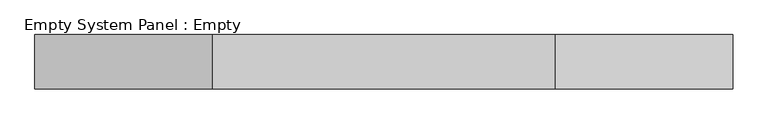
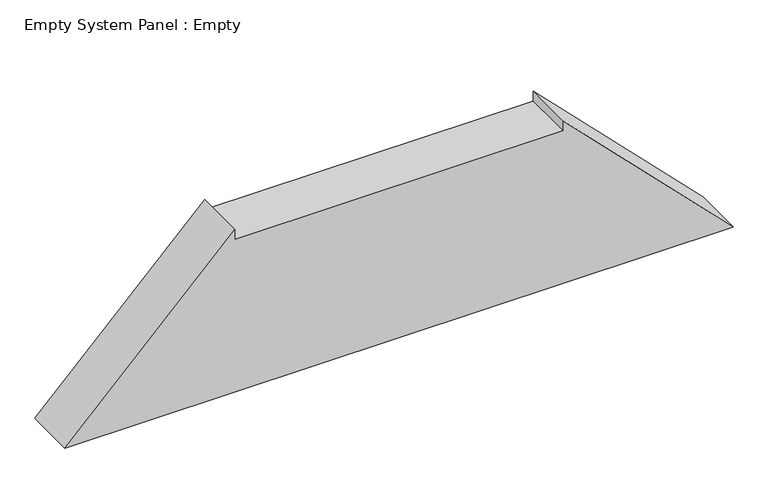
"""IFC4 building model written with IfcOpenShell, lengths in millimetres: plate geometry, Empty System Panel : Empty."""

import ifcopenshell
import ifcopenshell.guid

model = None  # the IFC model being written
_history = None  # IfcOwnerHistory: only IFC2X3 demands one
_inside = {}  # id of a spatial element -> (the spatial element, [elements in it])
_under = {}  # id of a project, library or spatial element -> (it, [spatial elements below it])
_declared = {}  # id of a project -> (the project, [libraries it declares])
_typed = {}  # id of a type object -> (the type object, [elements of that type])
_made_of = {}  # id of a material, layer set ... -> (it, [elements and type objects made of it])


def new_model(schema):
    """Start an empty IFC model of exactly this schema.

    Asked for "IFC4X3", IfcOpenShell would pick the latest addendum, in which some entities
    have other attributes; the version numbers below select the first issue.
    IFC2X3 requires an IfcOwnerHistory on every rooted entity: one is made here for all.
    """
    global model, _history
    if schema == "IFC4X3":
        model = ifcopenshell.file(schema_version=(4, 3, 0, 0))
    else:
        model = ifcopenshell.file(schema=schema)
    _inside.clear()
    _under.clear()
    _declared.clear()
    _typed.clear()
    _made_of.clear()
    _history = None
    if model.schema == "IFC2X3":
        org = make("IfcOrganization", Name="unknown")
        user = make(
            "IfcPersonAndOrganization",
            ThePerson=make("IfcPerson", FamilyName="unknown"),
            TheOrganization=org,
        )
        app = make(
            "IfcApplication",
            ApplicationDeveloper=org,
            Version="unknown",
            ApplicationFullName="unknown",
            ApplicationIdentifier="unknown",
        )
        _history = make(
            "IfcOwnerHistory",
            OwningUser=user,
            OwningApplication=app,
            ChangeAction="ADDED",
            CreationDate=0,
        )
    return model


def make(cls, **values):
    """One entity of the class cls with the attributes given. An attribute that is None is left unset."""
    return model.create_entity(
        cls, **{name: value for name, value in values.items() if value is not None}
    )


def rooted(cls, **values):
    """An entity with a GlobalId (a new one), such as an element, a storey or a relation."""
    return make(cls, GlobalId=ifcopenshell.guid.new(), OwnerHistory=_history, **values)


def si_unit(unit_type, name, prefix=None):
    """IfcSIUnit, for example si_unit("LENGTHUNIT", "METRE", prefix="MILLI")."""
    return make("IfcSIUnit", UnitType=unit_type, Prefix=prefix, Name=name)


def assignment(units):
    """IfcUnitAssignment: the units of a project."""
    return None if units is None else make("IfcUnitAssignment", Units=units)


def point(xyz):
    """IfcCartesianPoint."""
    return None if xyz is None else make("IfcCartesianPoint", Coordinates=xyz)


def direction(xyz):
    """IfcDirection."""
    return None if xyz is None else make("IfcDirection", DirectionRatios=xyz)


def frame(location, z_axis=None, x_axis=None):
    """IfcAxis2Placement3D, a coordinate frame: its origin and axes. An axis left out is left unset."""
    return make(
        "IfcAxis2Placement3D",
        Location=point(location),
        Axis=direction(z_axis),
        RefDirection=direction(x_axis),
    )


def origin():
    """The frame at (0, 0, 0) with its axes left unset."""
    return frame((0.0, 0.0, 0.0))


def place(relative_to, where):
    """IfcLocalPlacement: puts the frame where relative to a parent placement (None: the world)."""
    return make(
        "IfcLocalPlacement", PlacementRelTo=relative_to, RelativePlacement=where
    )


def context(
    kind, dimensions, precision=None, world=None, true_north=None, identifier=None
):
    """IfcGeometricRepresentationContext, for example the 3D "Model" context."""
    return make(
        "IfcGeometricRepresentationContext",
        ContextIdentifier=identifier,
        ContextType=kind,
        CoordinateSpaceDimension=dimensions,
        Precision=precision,
        WorldCoordinateSystem=world,
        TrueNorth=true_north,
    )


def project(units=None, contexts=None):
    """IfcProject with its units and contexts."""
    return rooted(
        "IfcProject",
        Name="project",
        RepresentationContexts=contexts,
        UnitsInContext=assignment(units),
    )


def spatial(cls, under=None, at=None, **own):
    """A site, building, storey or space (cls), placed at a placement, below another one or the project."""
    s = rooted(cls, ObjectPlacement=at, **own)
    if under is not None:
        _under.setdefault(under.id(), (under, []))[1].append(s)
    return s


def polyline(points):
    """IfcPolyline through the points."""
    return make("IfcPolyline", Points=[point(p) for p in points])


def outline(outer, holes=None, kind="AREA"):
    """IfcArbitraryClosedProfileDef: a profile drawn as a closed curve; with holes, ...WithVoids."""
    if holes is None:
        return make("IfcArbitraryClosedProfileDef", ProfileType=kind, OuterCurve=outer)
    return make(
        "IfcArbitraryProfileDefWithVoids",
        ProfileType=kind,
        OuterCurve=outer,
        InnerCurves=holes,
    )


def extrude(swept, where, along, depth):
    """IfcExtrudedAreaSolid: the profile swept, set in the frame where, extruded along a direction by depth."""
    return make(
        "IfcExtrudedAreaSolid",
        SweptArea=swept,
        Position=where,
        ExtrudedDirection=direction(along),
        Depth=depth,
    )


def shape(context_of_items, identifier, shape_type, items):
    """IfcShapeRepresentation: the items that make up one representation, for example the "Body"."""
    return make(
        "IfcShapeRepresentation",
        ContextOfItems=context_of_items,
        RepresentationIdentifier=identifier,
        RepresentationType=shape_type,
        Items=items,
    )


def source(mapping_origin, context_of_items, identifier, shape_type, items):
    """IfcRepresentationMap: a shape defined once, which mapped items show again and again."""
    return make(
        "IfcRepresentationMap",
        MappingOrigin=mapping_origin,
        MappedRepresentation=shape(context_of_items, identifier, shape_type, items),
    )


def transform(
    local_origin,
    x_axis=None,
    y_axis=None,
    z_axis=None,
    scale=None,
    scale2=None,
    scale3=None,
    uniform=True,
):
    """IfcCartesianTransformationOperator3D, or its non-uniform kind. x_axis, y_axis, z_axis: its Axis1, 2, 3."""
    if uniform:
        return make(
            "IfcCartesianTransformationOperator3D",
            Axis1=direction(x_axis),
            Axis2=direction(y_axis),
            LocalOrigin=point(local_origin),
            Scale=scale,
            Axis3=direction(z_axis),
        )
    return make(
        "IfcCartesianTransformationOperator3DnonUniform",
        Axis1=direction(x_axis),
        Axis2=direction(y_axis),
        LocalOrigin=point(local_origin),
        Scale=scale,
        Axis3=direction(z_axis),
        Scale2=scale2,
        Scale3=scale3,
    )


def mapped(mapping_source, mapping_target):
    """IfcMappedItem: shows the shape of a source again, moved by a transform."""
    return make(
        "IfcMappedItem", MappingSource=mapping_source, MappingTarget=mapping_target
    )


def made_of(thing, what):
    """Note that an element or type object is made of a material, layer set ...; save() writes the relation."""
    if what is not None:
        _made_of.setdefault(what.id(), (what, []))[1].append(thing)
    return thing


def element(
    cls,
    number,
    at=None,
    inside=None,
    cuts=None,
    type_object=None,
    material=None,
    context=None,
    identifier="Body",
    shape_type=None,
    held_by="IfcProductDefinitionShape",
    body=None,
    shapes=None,
    **own,
):
    """One element of the class cls, such as IfcWall. Its Tag is "e" and its number.

    at: its placement. inside: the storey or other place that contains it. cuts: it is an
    opening in that element (IfcRelVoidsElement). A single representation is given by context,
    identifier, shape_type and body (its items); several are given by shapes. held_by: the class
    of the entity that holds the representations. save() writes the other relations.
    """
    e = rooted(cls, Tag="e%d" % number, ObjectPlacement=at, **own)
    if body is not None:
        shapes = [shape(context, identifier, shape_type, body)]
    if shapes is not None:
        e.Representation = make(held_by, Representations=shapes)
    if inside is not None:
        _inside.setdefault(inside.id(), (inside, []))[1].append(e)
    if cuts is not None:
        rooted(
            "IfcRelVoidsElement", RelatingBuildingElement=cuts, RelatedOpeningElement=e
        )
    if type_object is not None:
        _typed.setdefault(type_object.id(), (type_object, []))[1].append(e)
    return made_of(e, material)


def aggregate(whole, parts):
    """IfcRelAggregates: a whole, such as a stair, and the parts it consists of."""
    return rooted("IfcRelAggregates", RelatingObject=whole, RelatedObjects=parts)


def save(model, path):
    """Write the relations noted so far, then the file.

    IfcRelAggregates (storeys below a building ...), IfcRelContainedInSpatialStructure (elements
    in a storey), IfcRelDefinesByType, IfcRelAssociatesMaterial and IfcRelDeclares: one each for
    every whole, place, type object, material and project.
    """
    for whole, parts in _under.values():
        aggregate(whole, parts)
    for where, things in _inside.values():
        rooted(
            "IfcRelContainedInSpatialStructure",
            RelatedElements=things,
            RelatingStructure=where,
        )
    for kind, things in _typed.values():
        rooted("IfcRelDefinesByType", RelatedObjects=things, RelatingType=kind)
    for what, things in _made_of.values():
        rooted("IfcRelAssociatesMaterial", RelatedObjects=things, RelatingMaterial=what)
    for by, libraries in _declared.values():
        rooted("IfcRelDeclares", RelatingContext=by, RelatedDefinitions=libraries)
    model.write(path)


def empty_system_panel_empty_bcb058c4(model_context):
    return source(origin(), model_context, "Body", "SweptSolid", [
        extrude(outline(polyline([(0.0, -641.5867126), (0.0, 641.5867126), (330.0, 315.2377161), (310.0, 315.2377161), (310.0, -315.2377161), (330.0, -315.2377161), (0.0, -641.5867126)])), frame((0.0, -50.0, 0.0), z_axis=(0.0, 1.0, 0.0), x_axis=(0.0, 0.0, 1.0)), (0.0, 0.0, 1.0), 100.0),
    ])


if __name__ == "__main__":
    model = new_model("IFC4")
    model_context = context("Model", 3, world=origin())
    ifc_project = project(units=[si_unit("LENGTHUNIT", "METRE", prefix="MILLI")], contexts=[model_context])
    site = spatial("IfcSite", under=ifc_project)
    building = spatial("IfcBuilding", under=site)
    placement = place(None, origin())
    empty_system_panel_empty_shape = empty_system_panel_empty_bcb058c4(model_context)
    element("IfcPlate", 1, ObjectType="Empty System Panel : Empty", at=placement, inside=building, context=model_context, shape_type="MappedRepresentation", body=[
        mapped(empty_system_panel_empty_shape, transform((0.0, 0.0, 0.0), x_axis=(1.0, 0.0, 0.0), y_axis=(0.0, 1.0, 0.0), z_axis=(0.0, 0.0, 1.0))),
    ])
    save(model, "model.ifc")
